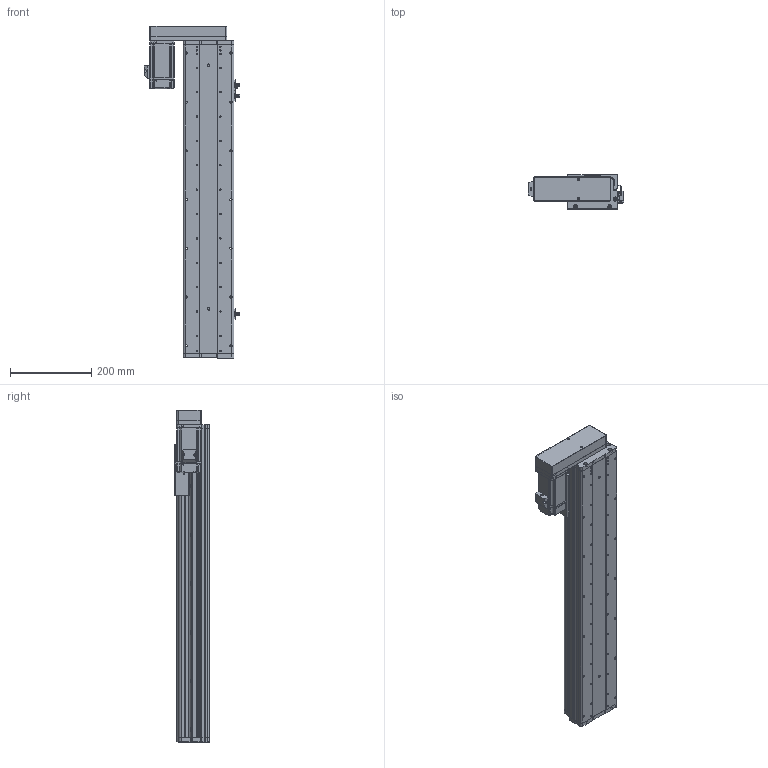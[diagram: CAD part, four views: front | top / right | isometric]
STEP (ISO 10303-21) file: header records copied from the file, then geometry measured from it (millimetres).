
FILE_DESCRIPTION (( 'STEP AP214' ), '1' );
FILE_NAME ('KSD125S-S550-ML-CM.STEP', '2017-10-21T08:34:42', ( '微软用户' ), ( '微软中国' ), 'SwSTEP 2.0', 'SolidWorks 2014', '' );
FILE_SCHEMA (( 'AUTOMOTIVE_DESIGN' ));
Length unit declared in the file: millimetre
Products named in the file (16): 覜茼え68遵圉猾敕; U倰嫖萇EEㄜSX672; HTPA30S3M150_A_H6_a佪裝蚚; HTPA30S3M150_A_H6_a萇儂蚚; 125宽马达安装板连板左右折丝杆; 125悵誘欶酘衵殏; KSD125S-550俴最佪裝滅鳥裔; KSD125S-550俴最佪裝菁啣; MHMD042G1CA_2_03; 拸萇儂釱滅袉菜; 拸萇儂釱滅袉菜-1; U倰嫖萇假蚾璃; ヶ傷啣-125遵耀郪; KSD125-賑雄釱1; 125-帣傷啣1; KSD125S-S550-ML-CM
Assembly tree (19 placements, depth 2):
  KSD125S-S550-ML-CM
    125-帣傷啣1
    KSD125-賑雄釱1
    ヶ傷啣-125遵耀郪
    U倰嫖萇假蚾璃  x3
    拸萇儂釱滅袉菜-1
    拸萇儂釱滅袉菜
    MHMD042G1CA_2_03
    KSD125S-550俴最佪裝菁啣
    KSD125S-550俴最佪裝滅鳥裔
    125悵誘欶酘衵殏
    125宽马达安装板连板左右折丝杆
    HTPA30S3M150_A_H6_a萇儂蚚
    HTPA30S3M150_A_H6_a佪裝蚚
    U倰嫖萇EEㄜSX672  x3
    覜茼え68遵圉猾敕
Bounding box: 234.2 x 86 x 817.5 mm (x, y, z)
Volume: 2774758.5 mm3; surface area: 959478.9 mm2
Topology: 18 solids, 21 shells, 2197 faces, 6369 edges, 4201 vertices
Faces by surface type: cylinder 1374, plane 682, cone 119, bspline 22
Entity records: 77411 total; most frequent: CARTESIAN_POINT 15751, DIRECTION 12087, ORIENTED_EDGE 11246, EDGE_CURVE 5701, AXIS2_PLACEMENT_3D 4671, VERTEX_POINT 3793, LINE 2745, VECTOR 2745
